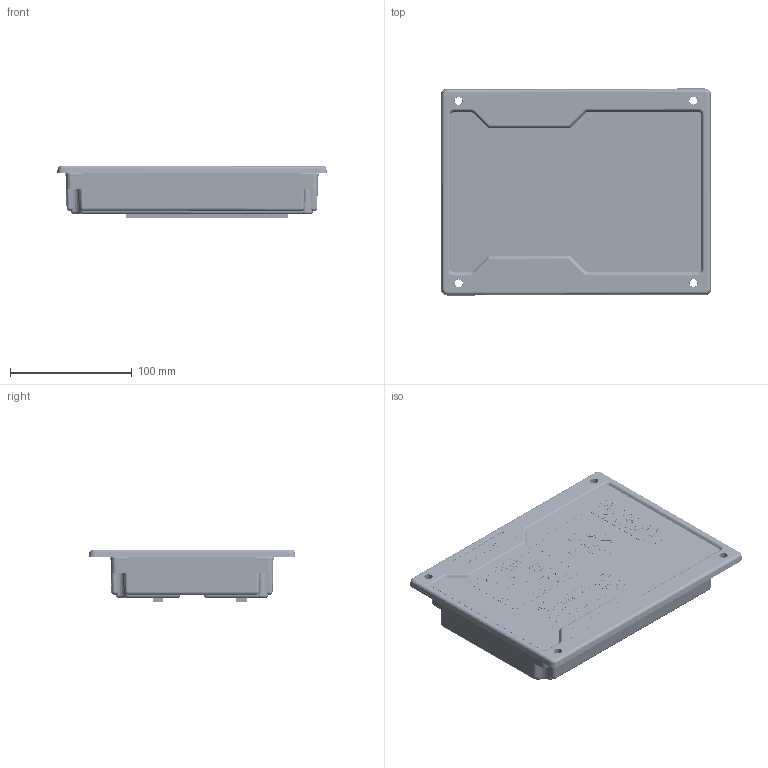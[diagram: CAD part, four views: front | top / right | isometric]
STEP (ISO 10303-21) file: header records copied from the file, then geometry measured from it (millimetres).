
FILE_DESCRIPTION(/* description */ ('CAx-IF Rec.Pracs.---Representation and Presentation of Product Manufacturing Information (PMI)---4.0---2014-10-13','CAx-IF Rec.Pracs.---3D Tessellated Geometry---0.4---2014-09-14','2;1'),/* implementation_level */ '2;1');
FILE_NAME(/* name */ 'K30SLV',/* time_stamp */ '2026-01-28T14:14:05-03:00',/* author */ ('Rodrigo Xavier'),/* organization */ ('KVA'),/* preprocessor_version */ 'ST-DEVELOPER v20',/* originating_system */ 'Solid Edge',/* authorisation */ 'Unknown');
FILE_SCHEMA (('AP242_MANAGED_MODEL_BASED_3D_ENGINEERING_MIM_LF { 1 0 10303 442 1 1 4 }'));
Products named in the file (8): SLV; Gabinete_Frontal_K30SLV; AdesivoFrontalK30SLV; EtiquetaSLV; EtiquetaKVASLV; Gabinete_Traseiro_SLV; PCI_K30SLV; KVA-K30XTE-PCI1_PA_oa_0
Assembly tree (7 placements, depth 3):
  SLV
    Gabinete_Frontal_K30SLV
    AdesivoFrontalK30SLV
    EtiquetaSLV
    EtiquetaKVASLV
    Gabinete_Traseiro_SLV
    PCI_K30SLV
      KVA-K30XTE-PCI1_PA_oa_0
Bounding box: 222.18 x 170.24 x 42.93 mm (x, y, z)
Volume: 262741.2 mm3; surface area: 302062.3 mm2
Topology: 543 solids, 543 shells, 11791 faces, 29280 edges, 19108 vertices
Faces by surface type: plane 8965, bspline 1225, cylinder 1184, cone 217, sphere 176, torus 24
Full cylindrical faces by diameter (mm): 0.404 x6, 0.412 x6, 0.488 x1, 0.57 x1, 1.293 x1, 1.363 x1, 2.5 x9, 3.5 x4, 4.923 x1, 5.387 x1, 10.808 x1, 12.53 x4, 12.6 x4, 13.127 x1, 13.305 x4, 13.6 x4, 14.003 x1
Entity records: 454045 total; most frequent: CARTESIAN_POINT 133498, ORIENTED_EDGE 57942, DIRECTION 50844, EDGE_CURVE 28971, LINE 22440, VECTOR 22440, VERTEX_POINT 19092, AXIS2_PLACEMENT_3D 14202
